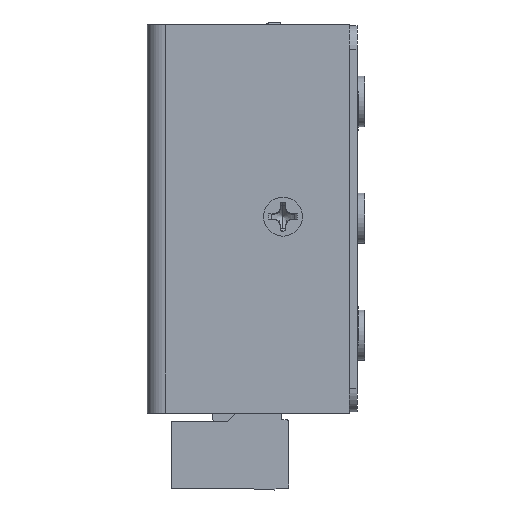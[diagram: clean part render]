
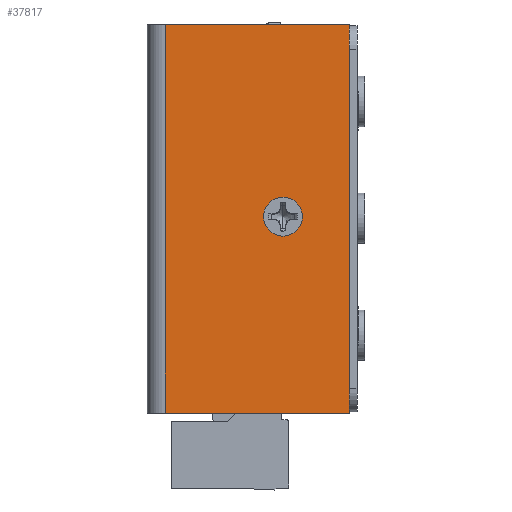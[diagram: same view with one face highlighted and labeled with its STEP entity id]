
A CAD part, left-side view. The second image highlights one B-rep face of the part: STEP entity #37817.
In plain terms, the highlighted planar face has unit normal (-1, 0, 0) as drawn and (0, 0, -1) by its records, which use the part's own axes.
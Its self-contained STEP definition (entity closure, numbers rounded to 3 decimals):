
#1493=FACE_BOUND('',#5241,.T.);
#1681=PLANE('',#40137);
#3159=FACE_OUTER_BOUND('',#5240,.T.);
#5240=EDGE_LOOP('',(#26626,#26627,#26628,#26629));
#5241=EDGE_LOOP('',(#26630));
#7477=LINE('',#53742,#11879);
#7482=LINE('',#53757,#11884);
#7483=LINE('',#53759,#11885);
#7484=LINE('',#53760,#11886);
#11879=VECTOR('',#43332,10.);
#11884=VECTOR('',#43347,10.);
#11885=VECTOR('',#43348,10.);
#11886=VECTOR('',#43349,10.);
#16269=CIRCLE('',#40138,2.5);
#17103=VERTEX_POINT('',#53729);
#17108=VERTEX_POINT('',#53740);
#17113=VERTEX_POINT('',#53756);
#17114=VERTEX_POINT('',#53758);
#17115=VERTEX_POINT('',#53761);
#20834=EDGE_CURVE('',#17108,#17103,#7477,.T.);
#20841=EDGE_CURVE('',#17113,#17108,#7482,.T.);
#20842=EDGE_CURVE('',#17114,#17113,#7483,.T.);
#20843=EDGE_CURVE('',#17114,#17103,#7484,.T.);
#20844=EDGE_CURVE('',#17115,#17115,#16269,.T.);
#26626=ORIENTED_EDGE('',*,*,#20834,.F.);
#26627=ORIENTED_EDGE('',*,*,#20841,.F.);
#26628=ORIENTED_EDGE('',*,*,#20842,.F.);
#26629=ORIENTED_EDGE('',*,*,#20843,.T.);
#26630=ORIENTED_EDGE('',*,*,#20844,.T.);
#37817=ADVANCED_FACE('',(#3159,#1493),#1681,.F.);
#40137=AXIS2_PLACEMENT_3D('',#53755,#43345,#43346);
#40138=AXIS2_PLACEMENT_3D('',#53762,#43350,#43351);
#43332=DIRECTION('',(0.,1.,0.));
#43345=DIRECTION('center_axis',(0.,0.,
1.));
#43346=DIRECTION('ref_axis',(-1.,0.,0.));
#43347=DIRECTION('',(1.,0.,0.));
#43348=DIRECTION('',(0.,-1.,0.));
#43349=DIRECTION('',(1.,0.,0.));
#43350=DIRECTION('center_axis',(0.,0.,
1.));
#43351=DIRECTION('ref_axis',(-1.,0.,0.));
#53729=CARTESIAN_POINT('',(-0.067,23.6,-74.));
#53740=CARTESIAN_POINT('',(-0.067,0.,-74.));
#53742=CARTESIAN_POINT('',(-0.067,0.8,-74.));
#53755=CARTESIAN_POINT('Origin',(0.,0.8,
-74.));
#53756=CARTESIAN_POINT('',(-49.87,0.,-74.));
#53757=CARTESIAN_POINT('',(-12.625,0.,-74.));
#53758=CARTESIAN_POINT('',(-49.87,23.6,-74.));
#53759=CARTESIAN_POINT('',(-49.87,23.6,-74.));
#53760=CARTESIAN_POINT('',(-25.25,23.6,-74.));
#53761=CARTESIAN_POINT('',(-22.75,8.5,-74.));
#53762=CARTESIAN_POINT('Origin',(-25.25,8.5,-74.));
